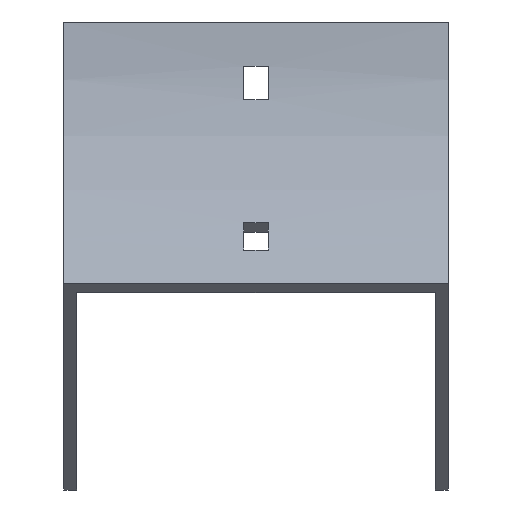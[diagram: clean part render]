
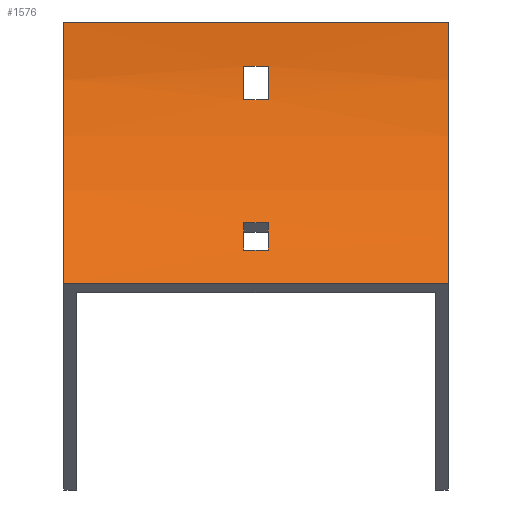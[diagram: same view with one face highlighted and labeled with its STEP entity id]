
A CAD part, front view. The second image highlights one B-rep face of the part: STEP entity #1576.
In plain terms, the highlighted cylindrical face has radius 100 mm (diameter 200 mm), a partial arc.
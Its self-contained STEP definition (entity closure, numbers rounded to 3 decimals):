
#19 = FACE_OUTER_BOUND ( 'NONE', #1313, .T. ) ;
#42 = CARTESIAN_POINT ( 'NONE',  ( 52., -29.289, -70.711 ) ) ;
#51 = EDGE_CURVE ( 'NONE', #1543, #1213, #1051, .T. ) ;
#65 = VECTOR ( 'NONE', #595, 1000. ) ;
#73 = CARTESIAN_POINT ( 'NONE',  ( 52., -16.017, -54.285 ) ) ;
#84 = CARTESIAN_POINT ( 'NONE',  ( 52., 0., 0. ) ) ;
#89 = LINE ( 'NONE', #1264, #997 ) ;
#104 = DIRECTION ( 'NONE',  ( 0., 0., 1. ) ) ;
#105 = EDGE_CURVE ( 'NONE', #507, #1334, #745, .T. ) ;
#107 = ORIENTED_EDGE ( 'NONE', *, *, #1524, .T. ) ;
#115 = AXIS2_PLACEMENT_3D ( 'NONE', #356, #493, #1378 ) ;
#121 = AXIS2_PLACEMENT_3D ( 'NONE', #1237, #1585, #1074 ) ;
#125 = CARTESIAN_POINT ( 'NONE',  ( -3.25, -100., 0. ) ) ;
#156 = CARTESIAN_POINT ( 'NONE',  ( 52., -100., 0. ) ) ;
#162 = FACE_BOUND ( 'NONE', #512, .T. ) ;
#176 = AXIS2_PLACEMENT_3D ( 'NONE', #308, #1244, #560 ) ;
#177 = DIRECTION ( 'NONE',  ( 1., 0., 0. ) ) ;
#183 = CARTESIAN_POINT ( 'NONE',  ( 52., 0., 0. ) ) ;
#194 = DIRECTION ( 'NONE',  ( 0., 0., 1. ) ) ;
#205 = CARTESIAN_POINT ( 'NONE',  ( 3.25, -2.23, -21. ) ) ;
#211 = CIRCLE ( 'NONE', #176, 100. ) ;
#219 = EDGE_CURVE ( 'NONE', #1543, #289, #1275, .T. ) ;
#269 = EDGE_CURVE ( 'NONE', #1284, #1569, #939, .T. ) ;
#289 = VERTEX_POINT ( 'NONE', #1559 ) ;
#305 = DIRECTION ( 'NONE',  ( -1., 0., 0. ) ) ;
#308 = CARTESIAN_POINT ( 'NONE',  ( 3.25, -100., 0. ) ) ;
#337 = EDGE_CURVE ( 'NONE', #429, #507, #822, .T. ) ;
#345 = AXIS2_PLACEMENT_3D ( 'NONE', #467, #992, #838 ) ;
#356 = CARTESIAN_POINT ( 'NONE',  ( 3.25, -100., 0. ) ) ;
#370 = AXIS2_PLACEMENT_3D ( 'NONE', #156, #305, #1206 ) ;
#373 = CARTESIAN_POINT ( 'NONE',  ( 3.25, -16.017, -54.285 ) ) ;
#420 = AXIS2_PLACEMENT_3D ( 'NONE', #125, #1310, #104 ) ;
#429 = VERTEX_POINT ( 'NONE', #541 ) ;
#438 = EDGE_CURVE ( 'NONE', #1213, #908, #1067, .T. ) ;
#459 = EDGE_LOOP ( 'NONE', ( #1200, #782, #1612, #1006 ) ) ;
#467 = CARTESIAN_POINT ( 'NONE',  ( -3.25, -100., 0. ) ) ;
#493 = DIRECTION ( 'NONE',  ( 1., 0., 0. ) ) ;
#504 = AXIS2_PLACEMENT_3D ( 'NONE', #1231, #689, #194 ) ;
#507 = VERTEX_POINT ( 'NONE', #1122 ) ;
#512 = EDGE_LOOP ( 'NONE', ( #543, #785, #1391, #1342 ) ) ;
#520 = VERTEX_POINT ( 'NONE', #1376 ) ;
#541 = CARTESIAN_POINT ( 'NONE',  ( -3.25, -21.315, -61.714 ) ) ;
#542 = CARTESIAN_POINT ( 'NONE',  ( -3.25, -0.723, -12. ) ) ;
#543 = ORIENTED_EDGE ( 'NONE', *, *, #844, .T. ) ;
#560 = DIRECTION ( 'NONE',  ( 0., 0., -1. ) ) ;
#592 = DIRECTION ( 'NONE',  ( -1., 0., 0. ) ) ;
#595 = DIRECTION ( 'NONE',  ( 1., 0., 0. ) ) ;
#611 = CIRCLE ( 'NONE', #121, 100. ) ;
#615 = DIRECTION ( 'NONE',  ( -1., 0., 0. ) ) ;
#637 = DIRECTION ( 'NONE',  ( -1., 0., 0. ) ) ;
#689 = DIRECTION ( 'NONE',  ( -1., 0., 0. ) ) ;
#723 = CIRCLE ( 'NONE', #345, 100. ) ;
#732 = CARTESIAN_POINT ( 'NONE',  ( -52., -29.289, -70.711 ) ) ;
#745 = CIRCLE ( 'NONE', #115, 100. ) ;
#760 = EDGE_CURVE ( 'NONE', #1569, #520, #1521, .T. ) ;
#767 = VERTEX_POINT ( 'NONE', #846 ) ;
#782 = ORIENTED_EDGE ( 'NONE', *, *, #1401, .F. ) ;
#785 = ORIENTED_EDGE ( 'NONE', *, *, #269, .T. ) ;
#817 = CARTESIAN_POINT ( 'NONE',  ( 52., -21.315, -61.714 ) ) ;
#822 = LINE ( 'NONE', #817, #995 ) ;
#838 = DIRECTION ( 'NONE',  ( 0., 0., -1. ) ) ;
#844 = EDGE_CURVE ( 'NONE', #1393, #1284, #89, .T. ) ;
#846 = CARTESIAN_POINT ( 'NONE',  ( -3.25, -16.017, -54.285 ) ) ;
#908 = VERTEX_POINT ( 'NONE', #732 ) ;
#939 = CIRCLE ( 'NONE', #420, 100. ) ;
#992 = DIRECTION ( 'NONE',  ( -1., 0., 0. ) ) ;
#995 = VECTOR ( 'NONE', #177, 1000. ) ;
#997 = VECTOR ( 'NONE', #1272, 1000. ) ;
#1006 = ORIENTED_EDGE ( 'NONE', *, *, #337, .F. ) ;
#1023 = CARTESIAN_POINT ( 'NONE',  ( 52., -29.289, -70.711 ) ) ;
#1051 = CIRCLE ( 'NONE', #504, 100. ) ;
#1067 = LINE ( 'NONE', #1023, #1427 ) ;
#1074 = DIRECTION ( 'NONE',  ( 0., 0., 1. ) ) ;
#1102 = ORIENTED_EDGE ( 'NONE', *, *, #438, .F. ) ;
#1122 = CARTESIAN_POINT ( 'NONE',  ( 3.25, -21.315, -61.714 ) ) ;
#1178 = EDGE_CURVE ( 'NONE', #767, #429, #723, .T. ) ;
#1200 = ORIENTED_EDGE ( 'NONE', *, *, #1178, .F. ) ;
#1206 = DIRECTION ( 'NONE',  ( 0., 0., 1. ) ) ;
#1213 = VERTEX_POINT ( 'NONE', #42 ) ;
#1229 = FACE_BOUND ( 'NONE', #459, .T. ) ;
#1231 = CARTESIAN_POINT ( 'NONE',  ( 52., -100., 0. ) ) ;
#1237 = CARTESIAN_POINT ( 'NONE',  ( -52., -100., 0. ) ) ;
#1244 = DIRECTION ( 'NONE',  ( -1., 0., 0. ) ) ;
#1247 = ORIENTED_EDGE ( 'NONE', *, *, #51, .F. ) ;
#1257 = LINE ( 'NONE', #73, #1532 ) ;
#1264 = CARTESIAN_POINT ( 'NONE',  ( 52., -2.23, -21. ) ) ;
#1272 = DIRECTION ( 'NONE',  ( -1., 0., 0. ) ) ;
#1275 = LINE ( 'NONE', #84, #1451 ) ;
#1284 = VERTEX_POINT ( 'NONE', #1548 ) ;
#1310 = DIRECTION ( 'NONE',  ( 1., 0., 0. ) ) ;
#1313 = EDGE_LOOP ( 'NONE', ( #107, #1102, #1247, #1578 ) ) ;
#1334 = VERTEX_POINT ( 'NONE', #373 ) ;
#1342 = ORIENTED_EDGE ( 'NONE', *, *, #1357, .T. ) ;
#1357 = EDGE_CURVE ( 'NONE', #520, #1393, #211, .T. ) ;
#1376 = CARTESIAN_POINT ( 'NONE',  ( 3.25, -0.723, -12. ) ) ;
#1378 = DIRECTION ( 'NONE',  ( 0., 0., 1. ) ) ;
#1391 = ORIENTED_EDGE ( 'NONE', *, *, #760, .T. ) ;
#1393 = VERTEX_POINT ( 'NONE', #205 ) ;
#1401 = EDGE_CURVE ( 'NONE', #1334, #767, #1257, .T. ) ;
#1427 = VECTOR ( 'NONE', #637, 1000. ) ;
#1451 = VECTOR ( 'NONE', #615, 1000. ) ;
#1505 = CARTESIAN_POINT ( 'NONE',  ( 52., -0.723, -12. ) ) ;
#1521 = LINE ( 'NONE', #1505, #65 ) ;
#1524 = EDGE_CURVE ( 'NONE', #289, #908, #611, .T. ) ;
#1532 = VECTOR ( 'NONE', #592, 1000. ) ;
#1543 = VERTEX_POINT ( 'NONE', #183 ) ;
#1548 = CARTESIAN_POINT ( 'NONE',  ( -3.25, -2.23, -21. ) ) ;
#1559 = CARTESIAN_POINT ( 'NONE',  ( -52., 0., 0. ) ) ;
#1569 = VERTEX_POINT ( 'NONE', #542 ) ;
#1576 = ADVANCED_FACE ( 'NONE', ( #19, #162, #1229 ), #1623, .F. ) ;
#1578 = ORIENTED_EDGE ( 'NONE', *, *, #219, .T. ) ;
#1585 = DIRECTION ( 'NONE',  ( -1., 0., 0. ) ) ;
#1612 = ORIENTED_EDGE ( 'NONE', *, *, #105, .F. ) ;
#1623 = CYLINDRICAL_SURFACE ( 'NONE', #370, 100. ) ;
